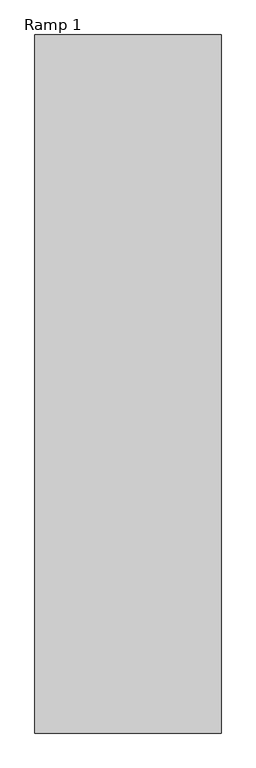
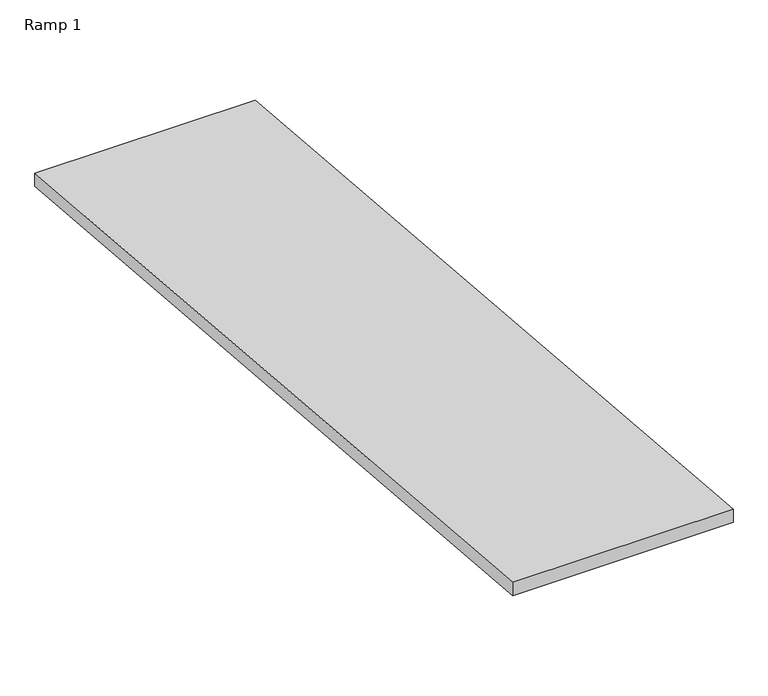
"""IFC4 building model written with IfcOpenShell, lengths in millimetres: ramp geometry, Ramp 1."""

from ifc_helpers import new_model, si_unit, frame, origin, place, context, project, spatial, polyline, outline, extrude, source, transform, mapped, element, save


def ramp_1_c634dc8e(model_context):
    return source(origin(), model_context, "Body", "SweptSolid", [
        extrude(outline(polyline([(-14776.7671527, -2250.0), (-5776.7671527, -3000.0), (-5776.7671527, -3150.5199322), (-14776.7671527, -2400.5199322), (-14776.7671527, -2250.0)])), frame((-4779.3266822, 0.0, 0.0), z_axis=(1.0, 0.0, 0.0), x_axis=(0.0, 1.0, 0.0)), (0.0, 0.0, 1.0), 2400.0),
    ])


if __name__ == "__main__":
    model = new_model("IFC4")
    model_context = context("Model", 3, world=origin())
    ifc_project = project(units=[si_unit("LENGTHUNIT", "METRE", prefix="MILLI")], contexts=[model_context])
    site = spatial("IfcSite", under=ifc_project)
    building = spatial("IfcBuilding", under=site)
    placement = place(None, origin())
    ramp_1_shape = ramp_1_c634dc8e(model_context)
    element("IfcRamp", 1, ObjectType="Ramp 1", at=placement, inside=building, context=model_context, shape_type="MappedRepresentation", body=[
        mapped(ramp_1_shape, transform((0.0, 0.0, 0.0), x_axis=(1.0, 0.0, 0.0), y_axis=(0.0, 1.0, 0.0), z_axis=(0.0, 0.0, 1.0))),
    ])
    save(model, "model.ifc")
